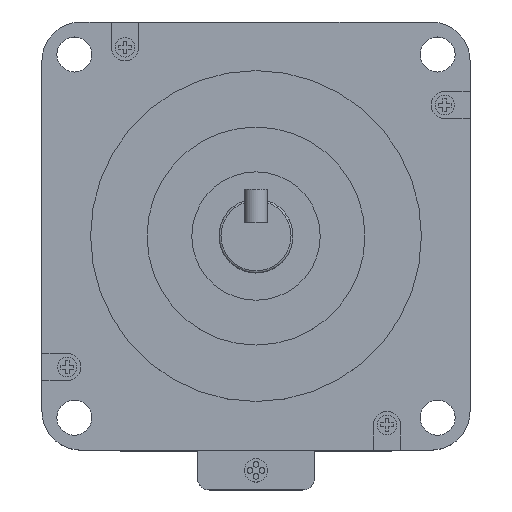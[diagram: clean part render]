
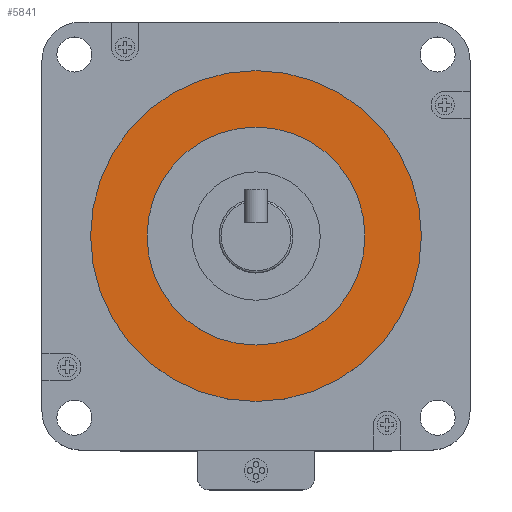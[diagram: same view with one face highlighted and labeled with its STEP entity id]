
A CAD part, top view. The second image highlights one B-rep face of the part: STEP entity #5841.
In plain terms, the highlighted planar face has unit normal (0, 0, 1).
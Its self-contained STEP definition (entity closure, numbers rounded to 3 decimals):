
#148 = DIRECTION ( 'NONE',  ( 0., 0., -1. ) ) ;
#158 = ORIENTED_EDGE ( 'NONE', *, *, #7790, .F. ) ;
#354 = DIRECTION ( 'NONE',  ( -1., 0., 0. ) ) ;
#933 = CARTESIAN_POINT ( 'NONE',  ( 0., 0., 3.5 ) ) ;
#1492 = DIRECTION ( 'NONE',  ( 0., 0., -1. ) ) ;
#1560 = DIRECTION ( 'NONE',  ( -1., 0., 0. ) ) ;
#1654 = CIRCLE ( 'NONE', #6879, 28. ) ;
#1657 = DIRECTION ( 'NONE',  ( 0., 0., 1. ) ) ;
#1660 = CARTESIAN_POINT ( 'NONE',  ( 0., 0., 3.5 ) ) ;
#1727 = AXIS2_PLACEMENT_3D ( 'NONE', #4426, #148, #4353 ) ;
#1931 = AXIS2_PLACEMENT_3D ( 'NONE', #933, #1657, #354 ) ;
#2247 = CARTESIAN_POINT ( 'NONE',  ( 0., 0., 3.5 ) ) ;
#2984 = AXIS2_PLACEMENT_3D ( 'NONE', #1660, #7404, #5280 ) ;
#2998 = PLANE ( 'NONE',  #1727 ) ;
#4270 = ORIENTED_EDGE ( 'NONE', *, *, #5891, .F. ) ;
#4353 = DIRECTION ( 'NONE',  ( -1., 0., 0. ) ) ;
#4426 = CARTESIAN_POINT ( 'NONE',  ( 0., 0., 3.5 ) ) ;
#4445 = CARTESIAN_POINT ( 'NONE',  ( -42.5, 0., 3.5 ) ) ;
#5149 = VERTEX_POINT ( 'NONE', #6811 ) ;
#5280 = DIRECTION ( 'NONE',  ( -1., 0., 0. ) ) ;
#5437 = ORIENTED_EDGE ( 'NONE', *, *, #9017, .F. ) ;
#5529 = VERTEX_POINT ( 'NONE', #4445 ) ;
#5574 = VERTEX_POINT ( 'NONE', #6495 ) ;
#5841 = ADVANCED_FACE ( 'NONE', ( #7401, #7170 ), #2998, .F. ) ;
#5891 = EDGE_CURVE ( 'NONE', #6906, #5529, #8180, .T. ) ;
#6317 = CIRCLE ( 'NONE', #1931, 28. ) ;
#6495 = CARTESIAN_POINT ( 'NONE',  ( -28., 0., 3.5 ) ) ;
#6507 = AXIS2_PLACEMENT_3D ( 'NONE', #2247, #1492, #1560 ) ;
#6519 = EDGE_LOOP ( 'NONE', ( #5437, #6997 ) ) ;
#6811 = CARTESIAN_POINT ( 'NONE',  ( 28., 0., 3.5 ) ) ;
#6879 = AXIS2_PLACEMENT_3D ( 'NONE', #6893, #8704, #8032 ) ;
#6893 = CARTESIAN_POINT ( 'NONE',  ( 0., 0., 3.5 ) ) ;
#6906 = VERTEX_POINT ( 'NONE', #9118 ) ;
#6928 = CIRCLE ( 'NONE', #6507, 42.5 ) ;
#6973 = EDGE_LOOP ( 'NONE', ( #158, #4270 ) ) ;
#6997 = ORIENTED_EDGE ( 'NONE', *, *, #8738, .F. ) ;
#7170 = FACE_BOUND ( 'NONE', #6519, .T. ) ;
#7401 = FACE_OUTER_BOUND ( 'NONE', #6973, .T. ) ;
#7404 = DIRECTION ( 'NONE',  ( 0., 0., -1. ) ) ;
#7790 = EDGE_CURVE ( 'NONE', #5529, #6906, #6928, .T. ) ;
#8032 = DIRECTION ( 'NONE',  ( -1., 0., 0. ) ) ;
#8180 = CIRCLE ( 'NONE', #2984, 42.5 ) ;
#8704 = DIRECTION ( 'NONE',  ( 0., 0., 1. ) ) ;
#8738 = EDGE_CURVE ( 'NONE', #5149, #5574, #1654, .T. ) ;
#9017 = EDGE_CURVE ( 'NONE', #5574, #5149, #6317, .T. ) ;
#9118 = CARTESIAN_POINT ( 'NONE',  ( 42.5, 0., 3.5 ) ) ;
